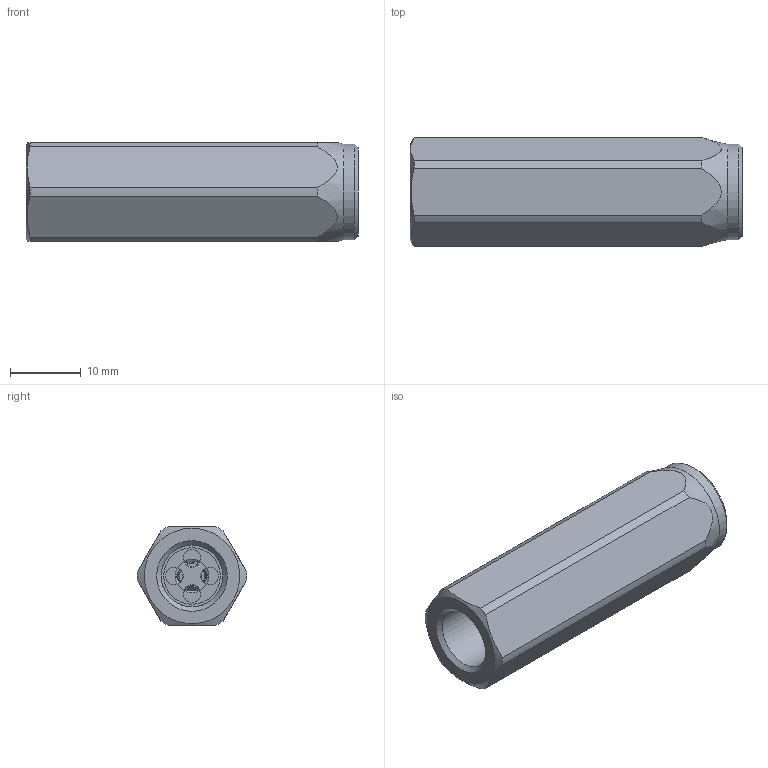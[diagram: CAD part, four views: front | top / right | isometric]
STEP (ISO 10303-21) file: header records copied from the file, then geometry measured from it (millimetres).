
FILE_DESCRIPTION (( 'STEP AP214' ), '1' );
FILE_NAME ('VUR180.STEP', '2020-06-15T06:54:40', ( '' ), ( '' ), 'SwSTEP 2.0', 'SolidWorks 2017', '' );
FILE_SCHEMA (( 'AUTOMOTIVE_DESIGN' ));
Length unit declared in the file: millimetre
Products named in the file (1): VUR180
Bounding box: 47 x 15.49 x 14 mm (x, y, z)
Volume: 6067.5 mm3; surface area: 5226.5 mm2
Topology: 7 solids, 7 shells, 103 faces, 236 edges, 147 vertices
Faces by surface type: plane 33, cylinder 28, cone 23, bspline 10, torus 8, sphere 1
Full cylindrical faces by diameter (mm): 2 x4, 2.3 x1, 2.5 x4, 4 x1, 5 x1, 5.5 x2, 6.5 x1, 8 x2, 8.75 x2, 9.728 x2, 10 x1, 13.5 x1
Entity records: 7600 total; most frequent: CARTESIAN_POINT 4417, DIRECTION 392, ORIENTED_EDGE 326, AXIS2_PLACEMENT_3D 183, EDGE_LOOP 178, EDGE_CURVE 163, FACE_OUTER_BOUND 132, VERTEX_POINT 129
